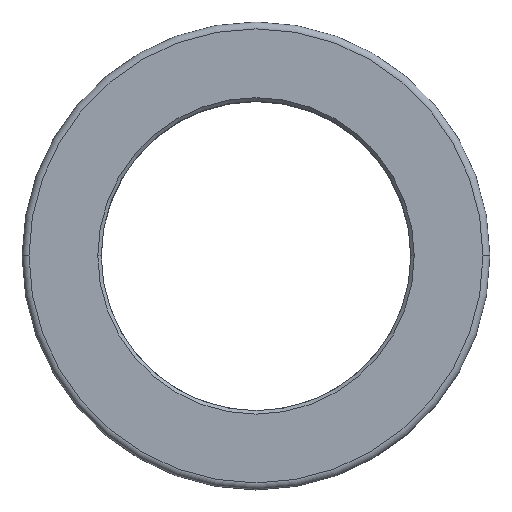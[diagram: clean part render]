
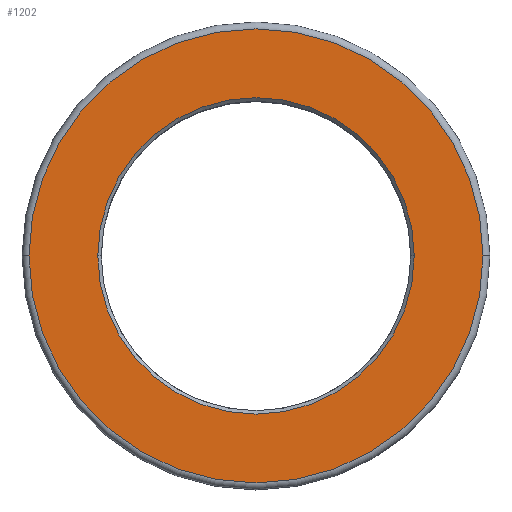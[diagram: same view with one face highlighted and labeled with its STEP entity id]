
A CAD part, top view. The second image highlights one B-rep face of the part: STEP entity #1202.
In plain terms, the highlighted planar face has unit normal (0, 0, 1).
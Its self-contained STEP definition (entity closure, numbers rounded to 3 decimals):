
#3 = CARTESIAN_POINT ( 'NONE',  ( 2.646, 5.408, 22. ) ) ;
#107 = CARTESIAN_POINT ( 'NONE',  ( -30.354, 5.408, 22. ) ) ;
#170 = AXIS2_PLACEMENT_3D ( 'NONE', #1198, #193, #1485 ) ;
#193 = DIRECTION ( 'NONE',  ( 0., 0., -1. ) ) ;
#225 = EDGE_CURVE ( 'NONE', #569, #1218, #1383, .T. ) ;
#299 = CIRCLE ( 'NONE', #170, 23. ) ;
#337 = CARTESIAN_POINT ( 'NONE',  ( 2.646, 5.408, 22. ) ) ;
#368 = EDGE_LOOP ( 'NONE', ( #1839, #1196 ) ) ;
#383 = DIRECTION ( 'NONE',  ( 0., 0., 1. ) ) ;
#395 = VERTEX_POINT ( 'NONE', #1445 ) ;
#396 = CARTESIAN_POINT ( 'NONE',  ( 2.646, 5.408, 22. ) ) ;
#441 = EDGE_CURVE ( 'NONE', #1779, #395, #697, .T. ) ;
#466 = DIRECTION ( 'NONE',  ( 0., 0., -1. ) ) ;
#484 = EDGE_CURVE ( 'NONE', #1218, #569, #1479, .T. ) ;
#490 = AXIS2_PLACEMENT_3D ( 'NONE', #396, #1292, #976 ) ;
#569 = VERTEX_POINT ( 'NONE', #1199 ) ;
#697 = CIRCLE ( 'NONE', #1229, 23. ) ;
#706 = FACE_OUTER_BOUND ( 'NONE', #992, .T. ) ;
#745 = DIRECTION ( 'NONE',  ( 1., 0., 0. ) ) ;
#905 = DIRECTION ( 'NONE',  ( 0., 0., 1. ) ) ;
#917 = ORIENTED_EDGE ( 'NONE', *, *, #225, .T. ) ;
#976 = DIRECTION ( 'NONE',  ( 1., 0., 0. ) ) ;
#992 = EDGE_LOOP ( 'NONE', ( #917, #1176 ) ) ;
#1066 = PLANE ( 'NONE',  #1107 ) ;
#1107 = AXIS2_PLACEMENT_3D ( 'NONE', #337, #383, #1681 ) ;
#1113 = CARTESIAN_POINT ( 'NONE',  ( 25.646, 5.408, 22. ) ) ;
#1176 = ORIENTED_EDGE ( 'NONE', *, *, #484, .T. ) ;
#1196 = ORIENTED_EDGE ( 'NONE', *, *, #1535, .T. ) ;
#1198 = CARTESIAN_POINT ( 'NONE',  ( 2.646, 5.408, 22. ) ) ;
#1199 = CARTESIAN_POINT ( 'NONE',  ( 35.646, 5.408, 22. ) ) ;
#1202 = ADVANCED_FACE ( 'NONE', ( #706, #1580 ), #1066, .T. ) ;
#1218 = VERTEX_POINT ( 'NONE', #107 ) ;
#1229 = AXIS2_PLACEMENT_3D ( 'NONE', #3, #466, #745 ) ;
#1292 = DIRECTION ( 'NONE',  ( 0., 0., 1. ) ) ;
#1383 = CIRCLE ( 'NONE', #490, 33. ) ;
#1390 = AXIS2_PLACEMENT_3D ( 'NONE', #1635, #905, #1754 ) ;
#1445 = CARTESIAN_POINT ( 'NONE',  ( -20.354, 5.408, 22. ) ) ;
#1479 = CIRCLE ( 'NONE', #1390, 33. ) ;
#1485 = DIRECTION ( 'NONE',  ( 1., 0., 0. ) ) ;
#1535 = EDGE_CURVE ( 'NONE', #395, #1779, #299, .T. ) ;
#1580 = FACE_BOUND ( 'NONE', #368, .T. ) ;
#1635 = CARTESIAN_POINT ( 'NONE',  ( 2.646, 5.408, 22. ) ) ;
#1681 = DIRECTION ( 'NONE',  ( 1., 0., 0. ) ) ;
#1754 = DIRECTION ( 'NONE',  ( 1., 0., 0. ) ) ;
#1779 = VERTEX_POINT ( 'NONE', #1113 ) ;
#1839 = ORIENTED_EDGE ( 'NONE', *, *, #441, .T. ) ;
